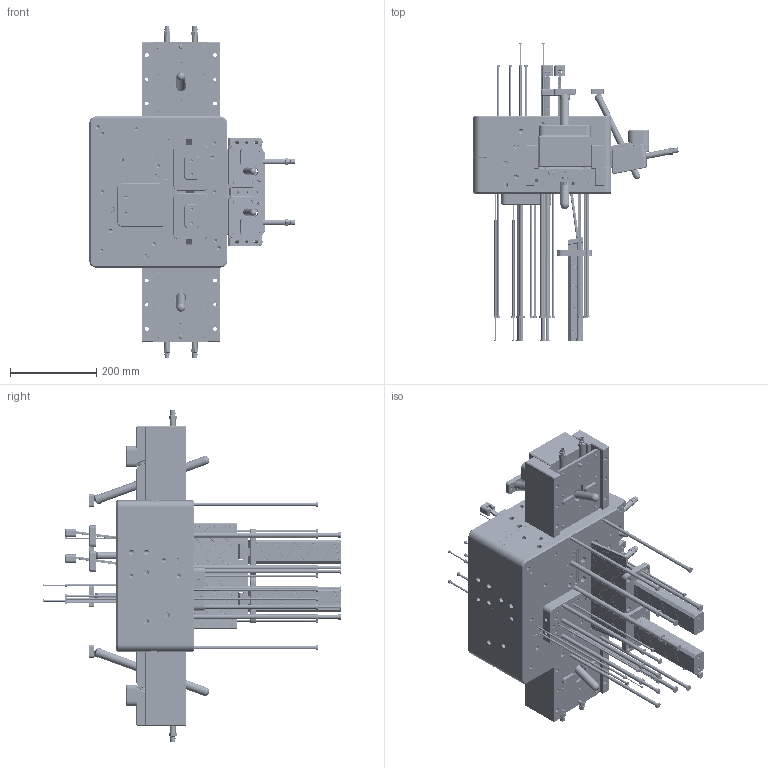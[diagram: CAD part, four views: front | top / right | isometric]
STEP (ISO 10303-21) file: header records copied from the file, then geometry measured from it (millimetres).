
FILE_DESCRIPTION((''),'2;1');
FILE_NAME('S1019-06-001-MA_ASM','2017-06-27T',('shouliangcui'),('NO'),'CREO PARAMETRIC BY PTC INC, 2016050','CREO PARAMETRIC BY PTC INC, 2016050','');
FILE_SCHEMA(('AUTOMOTIVE_DESIGN { 1 0 10303 214 1 1 1 1 }'));
Products named in the file (108): S1019-06_STOP_DISC_ASM004_ASM; S1019-06-200; S1019-06-201; S1019-06-202; S1019-06-203; S1019-06-204; S1019-06-205; S1019-06-601; S1019-06-602; S1019-06-603; S1019-06-401; S1019-06-206; S1019-06-207; S1019-06-400; S1019-06-610; S1019-06-630; S1019-06-631; S1019-06-634; S1019-06-625; S1019-06-632; S1019-06-633; S1019-06-635; S1019-06-MISIMI-LJPSH1-100; S1019-06_627; S1019-06-SLIDE_LOCK_L-02; S1019-06-XW-SCREW-01; S1019-06-SLIDER-01_ASM; S1019-06-SLIDER-601_ASM; S1019-06-615; S1019-06-SLIDER-602_ASM; S1019-06-640; S1019-06-641; S1019-06-644; S1019-06-643; S1019-06-642; S1019-06-645; S1019-06-626; S1019-06-646; S1019-06-647; S1019-06-MISIMI-LJPSH1-100-02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
Assembly tree (145 placements, depth 6):
  S1019-06-001-MA_ASM
    S1019-06_STOP_DISC_ASM004_ASM  x4
    S1019-06-1MD2-ALL_ASM
      S1019-06-1MD2-201_ASM
        S1019-06-200
        S1019-06-201
        S1019-06-202
        S1019-06-203
        S1019-06-204
        S1019-06-205
        S1019-06-601
        S1019-06-602
        S1019-06-603
        S1019-06-401
        S1019-06-206
        S1019-06-207
        S1019-06-400
        S1019-06-SLIDER-601_ASM
          S1019-06-610
          S1019-06-SLIDER-01_ASM
            S1019-06-630
            S1019-06-631
            S1019-06-634
            S1019-06-625
            S1019-06-632
            S1019-06-633
            S1019-06-635
            S1019-06-MISIMI-LJPSH1-100  x2
            S1019-06_627
            S1019-06-SLIDE_LOCK_L-02  x2
            S1019-06-XW-SCREW-01
        S1019-06-SLIDER-602_ASM
          S1019-06-615
          S1019-06-SLIDER-01_ASM
            S1019-06-630
            S1019-06-631
            S1019-06-634
            S1019-06-625
            S1019-06-632
            S1019-06-633
            S1019-06-635
            S1019-06-MISIMI-LJPSH1-100  x2
            S1019-06_627
            S1019-06-SLIDE_LOCK_L-02  x2
            S1019-06-XW-SCREW-01
        S1019-06-SLIDER-603_ASM
          S1019-06-640
          S1019-06-641
          S1019-06-644
          S1019-06-643
          S1019-06-642
          S1019-06-645
          S1019-06-626
          S1019-06-646
          S1019-06-647
          S1019-06-MISIMI-LJPSH1-100-02  x2
          S1019-06_627  x2
          S1019-06-SLIDE_LOCK_L  x2
          S1019-06-XW-SCREW-01  x2
        S1019-06-208
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Bounding box: 475.82 x 692 x 768.92 mm (x, y, z)
Volume: 28424438.6 mm3; surface area: 3476837.2 mm2
Topology: 157 solids, 157 shells, 13769 faces, 36260 edges, 22660 vertices
Faces by surface type: plane 5938, cylinder 4341, bspline 1564, cone 1208, torus 329, sphere 281, extrusion 106, revolution 2
Entity records: 553395 total; most frequent: CARTESIAN_POINT 187248, ORIENTED_EDGE 64960, DIRECTION 55055, EDGE_CURVE 32480, VERTEX_POINT 20647, AXIS2_PLACEMENT_3D 18662, VECTOR 17729, LINE 17623
